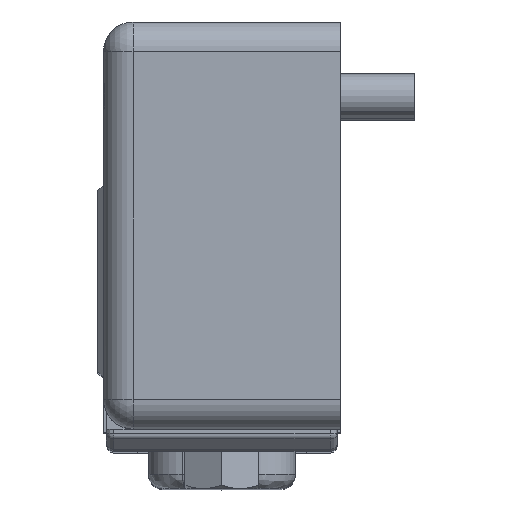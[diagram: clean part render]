
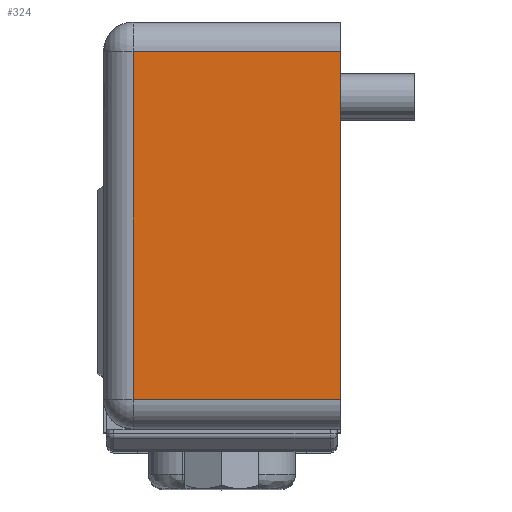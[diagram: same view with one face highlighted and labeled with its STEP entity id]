
A CAD part, top view. The second image highlights one B-rep face of the part: STEP entity #324.
In plain terms, the highlighted planar face has unit normal (0, 0, 1).
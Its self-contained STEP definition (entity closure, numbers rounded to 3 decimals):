
#324=ADVANCED_FACE('',(#2551),#2550,.T.);
#2550=PLANE('',#4682);
#2551=FACE_OUTER_BOUND('',#4683,.T.);
#4679=CARTESIAN_POINT('',(-15.4,-35.35,62.2));
#4680=DIRECTION('',(0.,0.,1.));
#4681=DIRECTION('',(1.,0.,0.));
#4682=AXIS2_PLACEMENT_3D('',#4679,#4680,#4681);
#4683=EDGE_LOOP('',(#6531,#6532,#6533,#6534));
#6531=ORIENTED_EDGE('',*,*,#7675,.F.);
#6532=ORIENTED_EDGE('',*,*,#7613,.T.);
#6533=ORIENTED_EDGE('',*,*,#7673,.T.);
#6534=ORIENTED_EDGE('',*,*,#7676,.F.);
#7613=EDGE_CURVE('',#11867,#11860,#11868,.T.);
#7673=EDGE_CURVE('',#11860,#12279,#12280,.T.);
#7675=EDGE_CURVE('',#11867,#12292,#12293,.T.);
#7676=EDGE_CURVE('',#12292,#12279,#12299,.T.);
#11860=VERTEX_POINT('',#16022);
#11867=VERTEX_POINT('',#16027);
#11868=LINE('',#16028,#16029);
#12279=VERTEX_POINT('',#16274);
#12280=LINE('',#16275,#16276);
#12292=VERTEX_POINT('',#16282);
#12293=LINE('',#16283,#16284);
#12299=LINE('',#16286,#16287);
#16022=CARTESIAN_POINT('',(-14.,-33.,62.2));
#16027=CARTESIAN_POINT('',(-14.,-9.5,62.2));
#16028=CARTESIAN_POINT('',(-14.,-9.5,62.2));
#16029=VECTOR('',#16030,23.5);
#16030=DIRECTION('',(0.,-1.,0.));
#16274=CARTESIAN_POINT('',(0.,-33.,62.2));
#16275=CARTESIAN_POINT('',(-14.,-33.,62.2));
#16276=VECTOR('',#16277,14.);
#16277=DIRECTION('',(1.,0.,0.));
#16282=CARTESIAN_POINT('',(0.,-9.5,62.2));
#16283=CARTESIAN_POINT('',(-14.,-9.5,62.2));
#16284=VECTOR('',#16285,14.);
#16285=DIRECTION('',(1.,0.,0.));
#16286=CARTESIAN_POINT('',(0.,-9.5,62.2));
#16287=VECTOR('',#16288,23.5);
#16288=DIRECTION('',(0.,-1.,0.));
